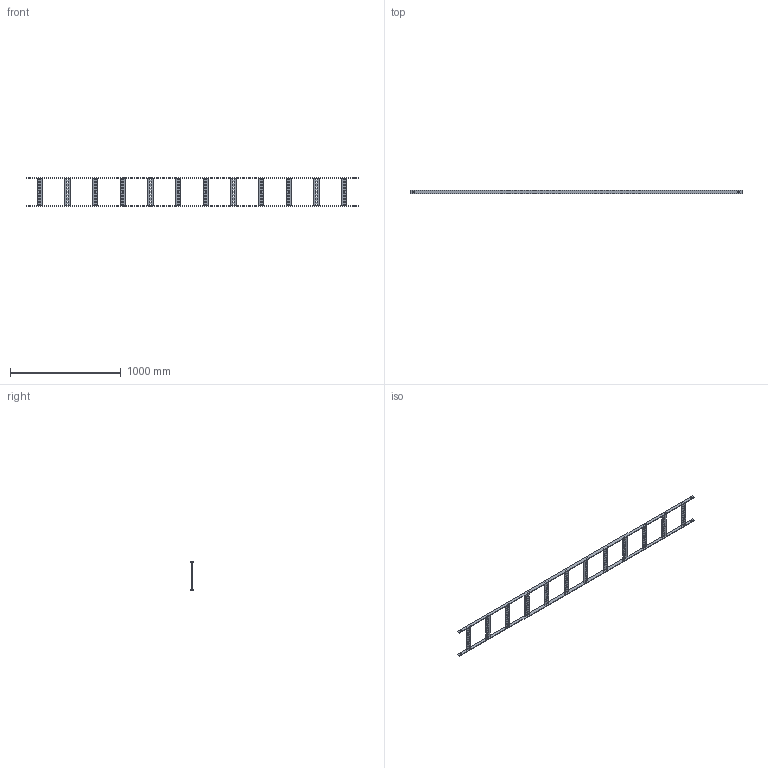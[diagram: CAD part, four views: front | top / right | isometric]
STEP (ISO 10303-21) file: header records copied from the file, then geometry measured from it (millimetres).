
FILE_DESCRIPTION(('Creo Elements/Direct Modeling STEP Export'),'2;1');
FILE_NAME('//pserver/office/EK/ME10-3D/3D-output/SKL 250F.stp','2020-03-10T 9:30:16',(''),(''),'PTC Creo Elements/Direct Modeling STEP processor for AP214 (Solid Model)','PTC Creo Elements/Direct Modeling 19.0C 15-Aug-2015 (C) Parametric Technology GmbH','');
FILE_SCHEMA(('AUTOMOTIVE_DESIGN { 1 0 10303 214 1 1 1 1 }'));
Length unit declared in the file: millimetre
Products named in the file (3): SKLSP_025B; SKL_Holm-L3000.1; SKL_250F
Assembly tree (14 placements, depth 2):
  SKL_250F
    SKLSP_025B  x12
    SKL_Holm-L3000.1  x2
Bounding box: 3000 x 30 x 260 mm (x, y, z)
Volume: 1433815.1 mm3; surface area: 740809.1 mm2
Topology: 14 solids, 14 shells, 580 faces, 1656 edges, 1104 vertices
Faces by surface type: plane 332, cylinder 248
Entity records: 2159 total; most frequent: DIRECTION 366, CARTESIAN_POINT 355, ORIENTED_EDGE 336, EDGE_CURVE 168, AXIS2_PLACEMENT_3D 123, VECTOR 120, LINE 120, VERTEX_POINT 112
